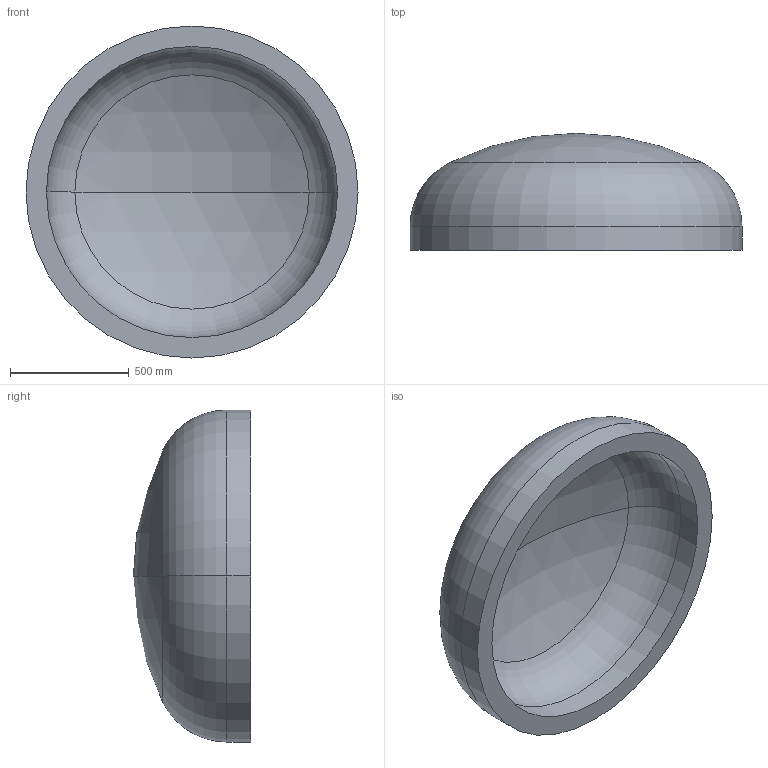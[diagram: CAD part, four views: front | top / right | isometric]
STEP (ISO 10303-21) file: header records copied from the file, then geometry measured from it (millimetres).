
FILE_DESCRIPTION (( 'STEP AP203' ), '1' );
FILE_NAME ('DIN 28013 Korbbogenform_-_Boden DIN 28013 - 1400 x 100 - I - s=86.step', '2016-07-01T10:26:45', ( '' ), ( '' ), 'SwSTEP 2.0', 'SolidWorks 2013', '' );
FILE_SCHEMA (( 'CONFIG_CONTROL_DESIGN' ));
Length unit declared in the file: millimetre
Products named in the file (1): DIN 28013 Korbbogenform_-_Boden DIN 28013 - 1400 x 100 - I - s=86
Bounding box: 1400 x 493.7 x 1400 mm (x, y, z)
Volume: 204963070 mm3; surface area: 5137084.6 mm2
Topology: 1 solids, 1 shells, 13 faces, 24 edges, 14 vertices
Faces by surface type: torus 4, cylinder 4, sphere 4, plane 1
Entity records: 407 total; most frequent: DIRECTION 72, CARTESIAN_POINT 52, ORIENTED_EDGE 48, AXIS2_PLACEMENT_3D 34, EDGE_CURVE 24, CIRCLE 20, VERTEX_POINT 14, EDGE_LOOP 14
